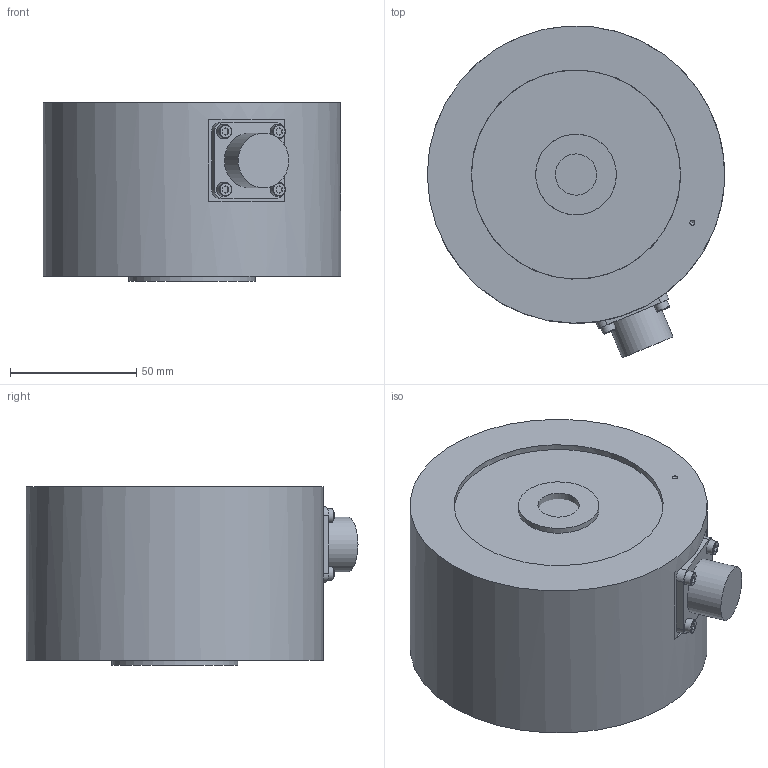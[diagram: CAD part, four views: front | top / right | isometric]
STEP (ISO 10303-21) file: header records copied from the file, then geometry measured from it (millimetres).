
FILE_DESCRIPTION(/* description */ ('Unknown'),/* implementation_level */ '2;1');
FILE_NAME(/* name */ 'C3XK-T003 to T005 SPEC',/* time_stamp */ '2021-05-11T15:20:10+09:00',/* author */ ('Unknown'),/* organization */ ('Unknown'),/* preprocessor_version */ 'ST-DEVELOPER v16.7',/* originating_system */ 'DEX',/* authorisation */ $);
FILE_SCHEMA (('AUTOMOTIVE_DESIGN {1 0 10303 214 3 1 1}'));
Length unit declared in the file: millimetre
Products named in the file (1): C3XK-T003 to T005 SPEC
Bounding box: 118 x 131.72 x 71 mm (x, y, z)
Volume: 735286.7 mm3; surface area: 60498.8 mm2
Topology: 1 solids, 1 shells, 170 faces, 380 edges, 254 vertices
Faces by surface type: plane 122, cylinder 35, cone 13
Full cylindrical faces by diameter (mm): 2 x1, 5.5 x4, 13 x8, 15 x8, 16.376 x3, 17 x1, 21.8 x1, 32 x1, 50 x1, 82.9 x1, 83 x1, 118 x1
Entity records: 5552 total; most frequent: DIRECTION 744, CARTESIAN_POINT 728, ORIENTED_EDGE 638, EDGE_CURVE 319, FACE_BOUND 257, EDGE_LOOP 256, AXIS2_PLACEMENT_3D 254, VERTEX_POINT 238
